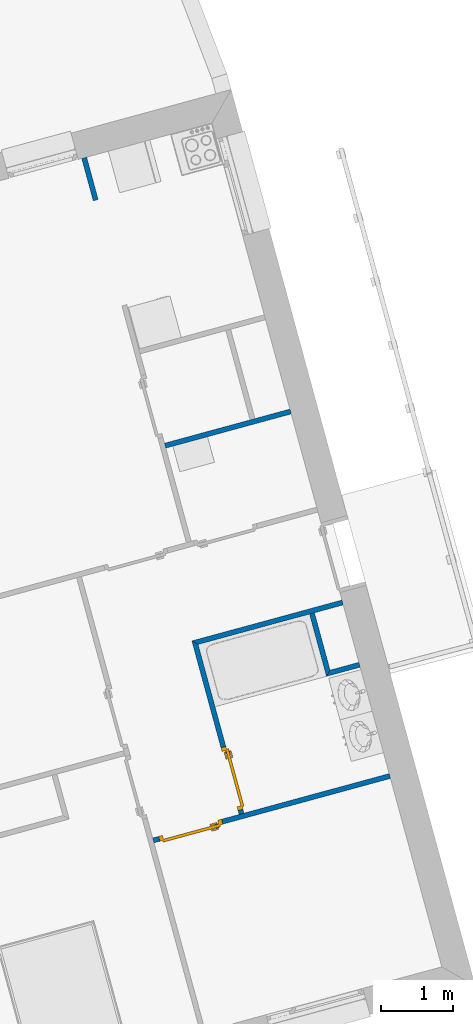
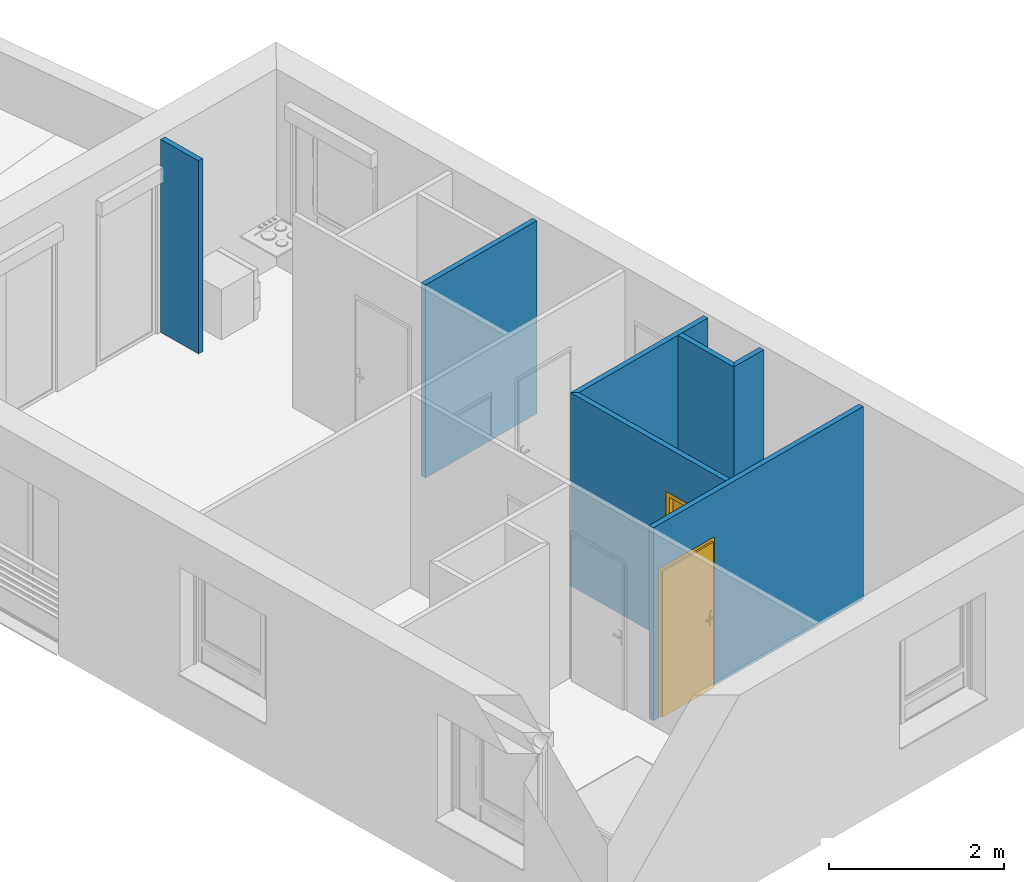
# One storey, part 66 of 121: 7 walls, 2 doors, 2 openings.
"""IFC2X3 building model written with IfcOpenShell, lengths in metres."""

from ifc_helpers import new_model, entity, si_unit, converted_unit, derived_unit, money_unit, direction, frame, origin_with_axes, origin_2d_with_axis, place, context, subcontext, project, spatial, polyline, rectangle, outline, extrude, faceted_brep, source, transform, mapped, material, layer, layer_set, layer_usage, type_object, element, fill, save


model = new_model("IFC2X3")

# Units and contexts
model_context = context("Model", 3, precision=1e-05, world=origin_with_axes(), true_north=direction((0.0, 1.0)))
body_context = subcontext(model_context, "Body", "Model", "MODEL_VIEW")
ifc_project = project(units=[si_unit("LENGTHUNIT", "METRE"), si_unit("AREAUNIT", "SQUARE_METRE"), si_unit("VOLUMEUNIT", "CUBIC_METRE"), converted_unit("PLANEANGLEUNIT", "DEGREE", entity("IfcPlaneAngleMeasure", 0.0174532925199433), si_unit("PLANEANGLEUNIT", "RADIAN"), dimensions=[0, 0, 0, 0, 0, 0, 0]), money_unit("CHF"), converted_unit("TIMEUNIT", "Year", entity("IfcTimeMeasure", 31557600.0), si_unit("TIMEUNIT", "SECOND"), dimensions=[0, 0, 1, 0, 0, 0, 0]), si_unit("MASSUNIT", "GRAM", prefix="KILO"), si_unit("THERMODYNAMICTEMPERATUREUNIT", "DEGREE_CELSIUS"), si_unit("LUMINOUSINTENSITYUNIT", "LUMEN"), si_unit("ENERGYUNIT", "JOULE", prefix="MEGA"), derived_unit("THERMALCONDUCTANCEUNIT", [(si_unit("POWERUNIT", "WATT"), 1), (si_unit("LENGTHUNIT", "METRE"), -1), (si_unit("THERMODYNAMICTEMPERATUREUNIT", "KELVIN"), -1)]), derived_unit("SPECIFICHEATCAPACITYUNIT", [(si_unit("ENERGYUNIT", "JOULE"), 1), (si_unit("MASSUNIT", "GRAM", prefix="KILO"), -1), (si_unit("THERMODYNAMICTEMPERATUREUNIT", "KELVIN"), -1)]), derived_unit("MASSDENSITYUNIT", [(si_unit("MASSUNIT", "GRAM", prefix="KILO"), 1), (si_unit("VOLUMEUNIT", "CUBIC_METRE"), -1)])], contexts=[model_context])

# Site, building, storey
site_placement = place(None, origin_with_axes())
site = spatial("IfcSite", under=ifc_project, at=site_placement, Name="Site", CompositionType="ELEMENT")
building_placement = place(site_placement, origin_with_axes())
building = spatial("IfcBuilding", under=site, at=building_placement, Name="Bâtiment", CompositionType="ELEMENT")
storey_placement = place(building_placement, frame((0.0, 0.0, 2.75), z_axis=(0.0, 0.0, 1.0), x_axis=(1.0, 0.0, 0.0)))
storey = spatial("IfcBuildingStorey", under=building, at=storey_placement, Name="Etage 1", CompositionType="ELEMENT", Elevation=2.75)

# Wall
ifc_material = material(Name="Hachure solide 268963992")
ifc_layer = layer(ifc_material, 0.07, ventilated="UNKNOWN")
ifc_layer_set = layer_set([ifc_layer], Name="Cloison 70 0826278243")
ifc_layer_usage_1 = layer_usage(ifc_layer_set, "AXIS2", "NEGATIVE", 0.0)
wall_type = type_object("IfcWallType", Name="Cloison 70 0826278243 70", PredefinedType="NOTDEFINED")
wall_1_placement = place(storey_placement, frame((9592.806817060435, -1049.845261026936, 57.7), z_axis=(0.0, 0.0, 1.0), x_axis=(0.9648682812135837, 0.2627340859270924, 0.0)))
element("IfcWallStandardCase", 1, at=wall_1_placement, inside=storey, type_object=wall_type, material=ifc_layer_usage_1, Name="Mur-149", context=body_context, shape_type="SweptSolid", body=[
    extrude(outline(polyline([(0.0, -0.06999999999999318), (1.813062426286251, -0.06999999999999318), (1.813062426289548, 0.0), (0.0, 0.0), (0.0, -0.06999999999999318)])), origin_with_axes(), (0.0, 0.0, 1.0), 2.7),
])

# Wall, opening, door
ifc_layer_usage_2 = layer_usage(ifc_layer_set, "AXIS2", "POSITIVE", 0.0)
wall_2_placement = place(storey_placement, frame((9593.915386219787, -1055.003822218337, 57.7), z_axis=(0.0, 0.0, 1.0), x_axis=(-0.2627340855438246, 0.9648682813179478, 0.0)))
wall_2 = element("IfcWallStandardCase", 2, at=wall_2_placement, inside=storey, type_object=wall_type, material=ifc_layer_usage_2, Name="Mur-149", context=body_context, shape_type="SweptSolid", body=[
    extrude(outline(polyline([(-1.509761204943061e-10, 0.0), (2.438364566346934, 0.0), (2.508364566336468, 0.07000000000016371), (-2.062279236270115e-10, 0.07000000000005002), (-1.509761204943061e-10, 0.0)])), origin_with_axes(), (0.0, 0.0, 1.0), 2.7),
])
opening_1_placement = place(wall_2_placement, frame((0.5097203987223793, 0.0, 0.0), z_axis=(0.0, 0.0, 1.0), x_axis=(1.0, 0.0, 0.0)))
opening_1 = element("IfcOpeningElement", 3, at=opening_1_placement, cuts=wall_2, Name="Por-299", context=body_context, shape_type="SweptSolid", body=[
    extrude(rectangle(XDim=0.9099999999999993, YDim=2.079999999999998, at=origin_2d_with_axis()), frame((0.0, 0.07000000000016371, 1.039999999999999), z_axis=(0.0, -1.0, 0.0), x_axis=(-1.0, 0.0, 0.0)), (0.0, 0.0, 1.0), 0.14),
])
door_style = type_object("IfcDoorStyle", Name="Porte_1v", ConstructionType="NOTDEFINED", OperationType="NOTDEFINED", ParameterTakesPrecedence=False, Sizeable=False)
shared_shape = source(origin_with_axes(), body_context, "Body", "Brep", [
    faceted_brep([(0.455, 0.0, 0.0), (0.415, 0.0, 0.0), (0.415, 0.0, 2.04), (-0.415, 0.0, 2.04), (-0.415, 0.0, 0.0), (-0.455, 0.0, 0.0), (-0.455, 0.0, 2.08), (0.455, 0.0, 2.08), (0.455, -0.07, 0.0), (0.4, -0.07, 0.0), (0.4, -0.015, 0.0), (0.415, -0.015, 0.0), (0.415, -0.015, 2.04), (-0.415, -0.015, 2.04), (-0.415, -0.015, 0.0), (-0.4, -0.015, 0.0), (-0.4, -0.07, 0.0), (-0.455, -0.07, 0.0), (-0.455, -0.07, 2.08), (0.455, -0.07, 2.08), (-0.4, -0.07, 2.025), (0.4, -0.07, 2.025), (0.4, -0.015, 2.025), (-0.4, -0.015, 2.025)], [[[0, 1, 2, 3, 4, 5, 6, 7]], [[0, 8, 9, 10, 11, 1]], [[1, 11, 12, 2]], [[2, 12, 13, 3]], [[3, 13, 14, 4]], [[5, 4, 14, 15, 16, 17]], [[18, 6, 5, 17]], [[19, 7, 6, 18]], [[8, 0, 7, 19]], [[9, 8, 19, 18, 17, 16, 20, 21]], [[10, 9, 21, 22]], [[11, 10, 22, 23, 15, 14, 13, 12]], [[23, 20, 16, 15]], [[22, 21, 20, 23]]]),
    faceted_brep([(-0.35, -0.015, 0.9), (-0.39, -0.015, 0.9), (-0.39, -0.015, 1.1), (-0.35, -0.015, 1.1), (-0.35, -0.025, 0.9), (-0.39, -0.025, 0.9), (-0.39, -0.025, 1.1), (-0.35, -0.025, 1.1)], [[[0, 1, 2, 3]], [[1, 0, 4, 5]], [[2, 1, 5, 6]], [[3, 2, 6, 7]], [[0, 3, 7, 4]], [[5, 4, 7, 6]]]),
    faceted_brep([(-0.28, -0.025, 1.0), (-0.38, -0.025, 1.0), (-0.38, -0.025, 1.02), (-0.28, -0.025, 1.02), (-0.28, -0.045, 1.0), (-0.38, -0.045, 1.0), (-0.38, -0.045, 1.02), (-0.28, -0.045, 1.02)], [[[0, 1, 2, 3]], [[1, 0, 4, 5]], [[2, 1, 5, 6]], [[3, 2, 6, 7]], [[0, 3, 7, 4]], [[5, 4, 7, 6]]]),
    faceted_brep([(-0.35, 0.035, 0.9), (-0.39, 0.035, 0.9), (-0.39, 0.035, 1.1), (-0.35, 0.035, 1.1), (-0.35, 0.025, 0.9), (-0.39, 0.025, 0.9), (-0.39, 0.025, 1.1), (-0.35, 0.025, 1.1)], [[[0, 1, 2, 3]], [[1, 0, 4, 5]], [[2, 1, 5, 6]], [[3, 2, 6, 7]], [[0, 3, 7, 4]], [[5, 4, 7, 6]]]),
    faceted_brep([(-0.28, 0.05500000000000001, 1.0), (-0.38, 0.05500000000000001, 1.0), (-0.38, 0.05500000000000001, 1.02), (-0.28, 0.05500000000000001, 1.02), (-0.28, 0.035, 1.0), (-0.38, 0.035, 1.0), (-0.38, 0.035, 1.02), (-0.28, 0.035, 1.02)], [[[0, 1, 2, 3]], [[1, 0, 4, 5]], [[2, 1, 5, 6]], [[3, 2, 6, 7]], [[0, 3, 7, 4]], [[5, 4, 7, 6]]]),
    faceted_brep([(-0.415, 0.025, 0.0), (0.415, 0.025, 0.0), (0.415, -0.015, 0.0), (-0.415, -0.015, 0.0), (-0.415, 0.025, 2.04), (0.415, 0.025, 2.04), (0.415, -0.015, 2.04), (-0.415, -0.015, 2.04)], [[[0, 1, 2, 3]], [[0, 4, 5, 1]], [[1, 5, 6, 2]], [[3, 2, 6, 7]], [[4, 0, 3, 7]], [[5, 4, 7, 6]]]),
])
door_1_placement = place(opening_1_placement, frame((0.4150000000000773, 0.0, 0.0), z_axis=(0.0, 0.0, 1.0), x_axis=(-1.0, 0.0, 0.0)))
door_1 = element("IfcDoor", 4, at=door_1_placement, inside=storey, type_object=door_style, Name="Por-299", OverallHeight=2.04, OverallWidth=0.83, context=body_context, shape_type="MappedRepresentation", body=[
    mapped(shared_shape, transform((0.4150000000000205, 0.0, 0.0))),
])
fill(opening_1, door_1)

ifc_layer_usage_3 = layer_usage(ifc_layer_set, "AXIS2", "POSITIVE", 0.0)
wall_3_placement = place(storey_placement, frame((9596.307071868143, -1054.352565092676, 57.7), z_axis=(0.0, 0.0, 1.0), x_axis=(-0.96486828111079, -0.2627340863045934, 0.0)))
wall_3 = element("IfcWallStandardCase", 5, at=wall_3_placement, inside=storey, type_object=wall_type, material=ifc_layer_usage_3, Name="Mur-149", context=body_context, shape_type="SweptSolid", body=[
    extrude(outline(polyline([(0.380000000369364, 0.0), (3.798769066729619, 0.0), (3.798769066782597, 0.06999999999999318), (0.3800000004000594, 0.06999999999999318), (0.380000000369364, 0.0)])), origin_with_axes(), (0.0, 0.0, 1.0), 2.7),
])
opening_2_placement = place(wall_3_placement, frame((3.258124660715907, 0.0, 0.0), z_axis=(0.0, 0.0, 1.0), x_axis=(1.0, 0.0, 0.0)))
opening_2 = element("IfcOpeningElement", 6, at=opening_2_placement, cuts=wall_3, Name="Por-303", context=body_context, shape_type="SweptSolid", body=[
    extrude(rectangle(XDim=0.9099999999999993, YDim=2.079999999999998, at=origin_2d_with_axis()), frame((0.0, -0.06999999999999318, 1.039999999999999), z_axis=(0.0, 1.0, 0.0), x_axis=(1.0, 0.0, 0.0)), (0.0, 0.0, 1.0), 0.14),
])
door_2_placement = place(opening_2_placement, frame((-0.4150000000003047, 0.0, 0.0), z_axis=(0.0, 0.0, 1.0), x_axis=(1.0, 0.0, 0.0)))
door_2 = element("IfcDoor", 7, at=door_2_placement, inside=storey, type_object=door_style, Name="Por-303", OverallHeight=2.04, OverallWidth=0.83, context=body_context, shape_type="MappedRepresentation", body=[
    mapped(shared_shape, transform((0.4149999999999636, 0.06999999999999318, 0.0))),
])
fill(opening_2, door_2)

# Walls
ifc_layer_usage_4 = layer_usage(ifc_layer_set, "AXIS2", "POSITIVE", 0.0)
wall_4_placement = place(storey_placement, frame((9595.648038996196, -1051.932323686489, 57.7), z_axis=(0.0, 0.0, 1.0), x_axis=(-0.9648682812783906, -0.2627340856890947, 0.0)))
element("IfcWallStandardCase", 8, at=wall_4_placement, inside=storey, type_object=wall_type, material=ifc_layer_usage_4, Name="Mur-149", context=body_context, shape_type="SweptSolid", body=[
    extrude(outline(polyline([(0.3799999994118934, 0.0), (2.548769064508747, 0.0), (2.478769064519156, 0.06999999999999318), (0.3799999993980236, 0.06999999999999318), (0.3799999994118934, 0.0)])), origin_with_axes(), (0.0, 0.0, 1.0), 2.7),
])
ifc_layer_usage_5 = layer_usage(ifc_layer_set, "AXIS2", "POSITIVE", 0.0)
wall_5_placement = place(storey_placement, frame((9595.115486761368, -1053.010107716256, 57.7), z_axis=(0.0, 0.0, 1.0), x_axis=(-0.2627340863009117, 0.9648682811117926, 0.0)))
element("IfcWallStandardCase", 9, at=wall_5_placement, inside=storey, type_object=wall_type, material=ifc_layer_usage_5, Name="Mur-149", context=body_context, shape_type="SweptSolid", body=[
    extrude(outline(polyline([(0.0, 0.0), (0.8299999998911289, 0.0), (0.8299999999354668, 0.06999999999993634), (-0.06999999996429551, 0.07000000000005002), (0.0, 0.0)])), origin_with_axes(), (0.0, 0.0, 1.0), 2.7),
])
ifc_layer_usage_6 = layer_usage(ifc_layer_set, "AXIS2", "POSITIVE", 0.0)
wall_6_placement = place(storey_placement, frame((9591.881155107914, -1046.44584729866, 57.7), z_axis=(0.0, 0.0, 1.0), x_axis=(-0.2627340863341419, 0.9648682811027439, 0.0)))
element("IfcWallStandardCase", 10, at=wall_6_placement, inside=storey, type_object=wall_type, material=ifc_layer_usage_6, Name="Mur-149", context=body_context, shape_type="SweptSolid", body=[
    extrude(outline(polyline([(0.0, 0.0), (0.6120429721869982, 0.0), (0.6120429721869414, 0.06999999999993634), (0.0, 0.06999999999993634), (0.0, 0.0)])), origin_with_axes(), (0.0, 0.0, 1.0), 2.7),
])
ifc_layer_usage_7 = layer_usage(ifc_layer_set, "AXIS2", "POSITIVE", 0.0)
wall_7_placement = place(storey_placement, frame((9595.88449967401, -1052.800705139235, 57.7), z_axis=(0.0, 0.0, 1.0), x_axis=(-0.9648682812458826, -0.2627340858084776, 0.0)))
element("IfcWallStandardCase", 11, at=wall_7_placement, inside=storey, type_object=wall_type, material=ifc_layer_usage_7, Name="Mur-149", context=body_context, shape_type="SweptSolid", body=[
    extrude(outline(polyline([(0.3800000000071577, 0.0), (0.7970133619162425, 0.0), (0.8670133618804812, 0.06999999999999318), (0.3800000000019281, 0.06999999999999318), (0.3800000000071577, 0.0)])), origin_with_axes(), (0.0, 0.0, 1.0), 2.7),
])

save(model, "model.ifc")
